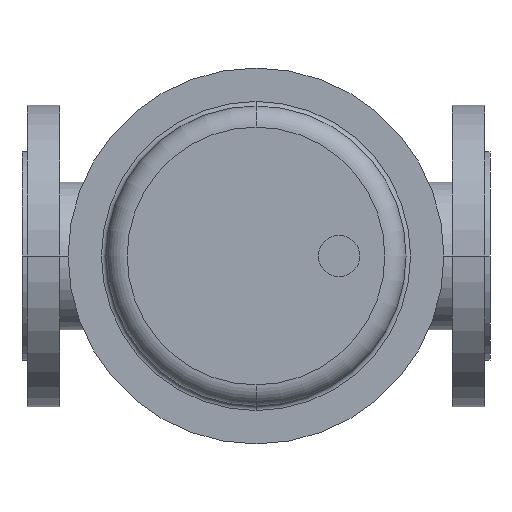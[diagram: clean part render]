
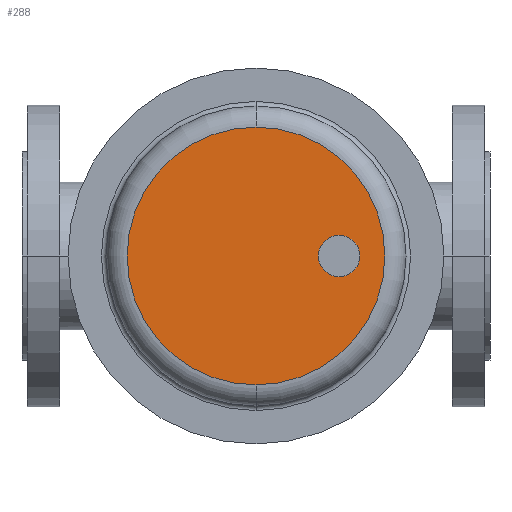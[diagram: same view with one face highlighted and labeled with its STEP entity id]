
A CAD part, front view. The second image highlights one B-rep face of the part: STEP entity #288.
In plain terms, the highlighted planar face has unit normal (0, -1, 0).
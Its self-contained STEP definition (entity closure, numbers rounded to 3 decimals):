
#288 = ADVANCED_FACE( '', ( #684, #685 ), #686, .T. );
#684 = FACE_BOUND( '', #1096, .T. );
#685 = FACE_OUTER_BOUND( '', #1097, .T. );
#686 = PLANE( '', #1098 );
#1096 = EDGE_LOOP( '', ( #2413, #2414 ) );
#1097 = EDGE_LOOP( '', ( #2415, #2416, #2417 ) );
#1098 = AXIS2_PLACEMENT_3D( '', #2418, #2419, #2420 );
#2413 = ORIENTED_EDGE( '', *, *, #2927, .T. );
#2414 = ORIENTED_EDGE( '', *, *, #2929, .T. );
#2415 = ORIENTED_EDGE( '', *, *, #2921, .F. );
#2416 = ORIENTED_EDGE( '', *, *, #2920, .F. );
#2417 = ORIENTED_EDGE( '', *, *, #2930, .F. );
#2418 = CARTESIAN_POINT( '', ( 197.688, -539., 0. ) );
#2419 = DIRECTION( '', ( 0., -1., 0. ) );
#2420 = DIRECTION( '', ( -1., 0., 0. ) );
#2920 = EDGE_CURVE( '', #3615, #3618, #3619, .T. );
#2921 = EDGE_CURVE( '', #3618, #3620, #3621, .T. );
#2927 = EDGE_CURVE( '', #3625, #3629, #3631, .T. );
#2929 = EDGE_CURVE( '', #3629, #3625, #3633, .T. );
#2930 = EDGE_CURVE( '', #3620, #3615, #3634, .T. );
#3615 = VERTEX_POINT( '', #4985 );
#3618 = VERTEX_POINT( '', #4988 );
#3619 = CIRCLE( '', #4989, 85.375 );
#3620 = VERTEX_POINT( '', #4990 );
#3621 = CIRCLE( '', #4991, 85.375 );
#3625 = VERTEX_POINT( '', #4995 );
#3629 = VERTEX_POINT( '', #5000 );
#3631 = CIRCLE( '', #5003, 13.75 );
#3633 = CIRCLE( '', #5005, 13.75 );
#3634 = CIRCLE( '', #5006, 85.375 );
#4985 = CARTESIAN_POINT( '', ( 155., -539., 85.375 ) );
#4988 = CARTESIAN_POINT( '', ( 240.375, -539., 0. ) );
#4989 = AXIS2_PLACEMENT_3D( '', #5962, #5963, #5964 );
#4990 = CARTESIAN_POINT( '', ( 155., -539., -85.375 ) );
#4991 = AXIS2_PLACEMENT_3D( '', #5965, #5966, #5967 );
#4995 = CARTESIAN_POINT( '', ( 223.75, -539., 0. ) );
#5000 = CARTESIAN_POINT( '', ( 196.25, -539., 0. ) );
#5003 = AXIS2_PLACEMENT_3D( '', #5979, #5980, #5981 );
#5005 = AXIS2_PLACEMENT_3D( '', #5985, #5986, #5987 );
#5006 = AXIS2_PLACEMENT_3D( '', #5988, #5989, #5990 );
#5962 = CARTESIAN_POINT( '', ( 155., -539., 0. ) );
#5963 = DIRECTION( '', ( 0., 1., 0. ) );
#5964 = DIRECTION( '', ( 1., 0., 0. ) );
#5965 = CARTESIAN_POINT( '', ( 155., -539., 0. ) );
#5966 = DIRECTION( '', ( 0., 1., 0. ) );
#5967 = DIRECTION( '', ( 1., 0., 0. ) );
#5979 = CARTESIAN_POINT( '', ( 210., -539., 0. ) );
#5980 = DIRECTION( '', ( 0., 1., 0. ) );
#5981 = DIRECTION( '', ( 1., 0., 0. ) );
#5985 = CARTESIAN_POINT( '', ( 210., -539., 0. ) );
#5986 = DIRECTION( '', ( 0., 1., 0. ) );
#5987 = DIRECTION( '', ( 1., 0., 0. ) );
#5988 = CARTESIAN_POINT( '', ( 155., -539., 0. ) );
#5989 = DIRECTION( '', ( 0., 1., 0. ) );
#5990 = DIRECTION( '', ( 1., 0., 0. ) );
